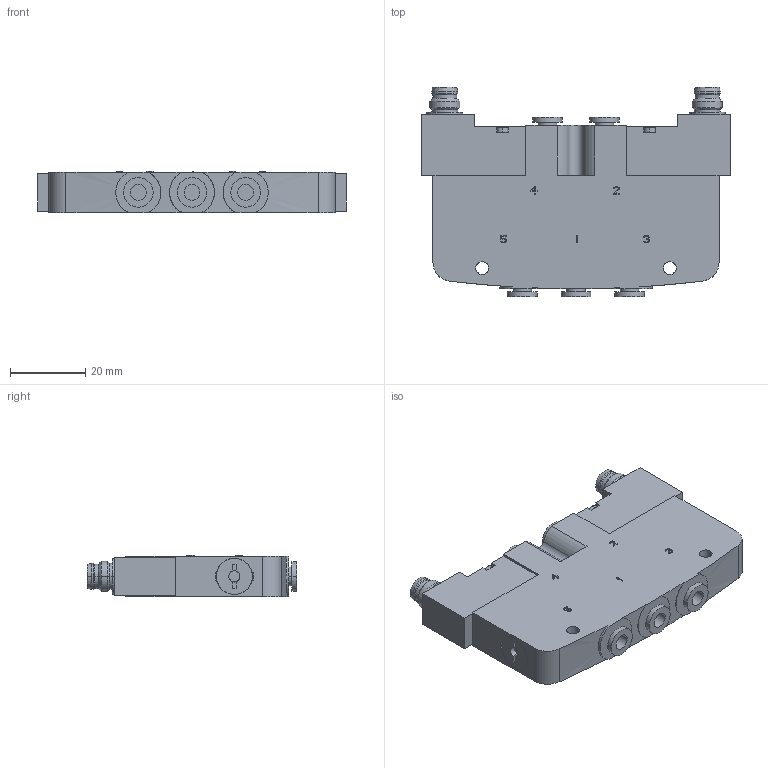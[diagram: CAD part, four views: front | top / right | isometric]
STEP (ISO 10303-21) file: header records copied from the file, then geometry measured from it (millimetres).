
FILE_DESCRIPTION((''),'2;1');
FILE_NAME('R422103581_ASM','2017-02-02T',('prr2cob'),(''),'PRO/ENGINEER BY PARAMETRIC TECHNOLOGY CORPORATION, 2012421','PRO/ENGINEER BY PARAMETRIC TECHNOLOGY CORPORATION, 2012421','');
FILE_SCHEMA(('CONFIG_CONTROL_DESIGN','SHAPE_APPEARANCE_LAYERS_GROUPS'));
Length unit declared in the file: millimetre
Products named in the file (3): R422103581-A; R422103581-C; R422103581_ASM
Assembly tree (3 placements, depth 2):
  R422103581_ASM
    R422103581-A
    R422103581-C  x2
Bounding box: 82.1 x 55.85 x 11 mm (x, y, z)
Volume: 34993.1 mm3; surface area: 13897.3 mm2
Topology: 3 solids, 3 shells, 419 faces, 1050 edges, 688 vertices
Faces by surface type: plane 263, cylinder 132, cone 24
Entity records: 11136 total; most frequent: CARTESIAN_POINT 2083, DIRECTION 1864, ORIENTED_EDGE 1840, EDGE_CURVE 920, VECTOR 694, LINE 694, VERTEX_POINT 606, AXIS2_PLACEMENT_3D 585
